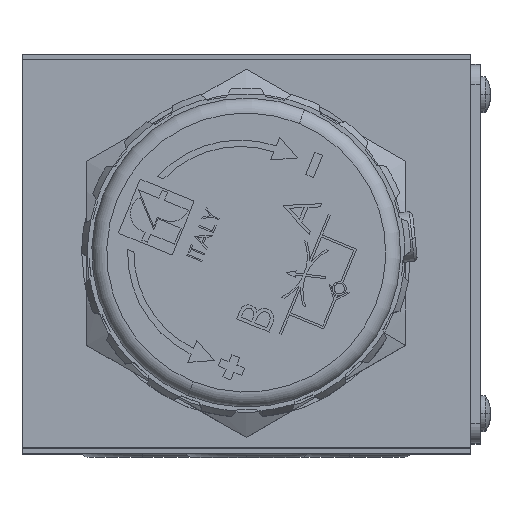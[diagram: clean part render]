
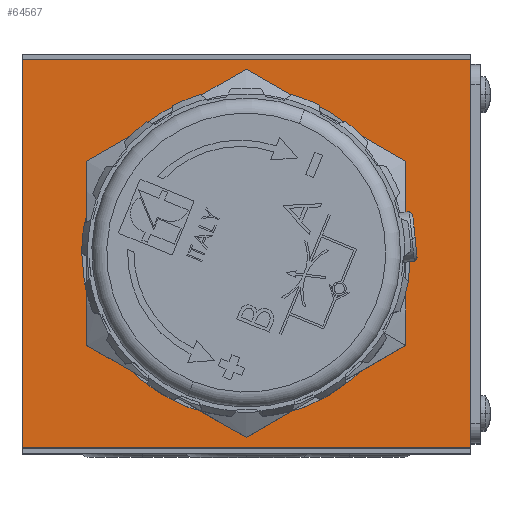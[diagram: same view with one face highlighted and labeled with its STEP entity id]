
A CAD part, top view. The second image highlights one B-rep face of the part: STEP entity #64567.
In plain terms, the highlighted planar face has unit normal (0, 0, 1).
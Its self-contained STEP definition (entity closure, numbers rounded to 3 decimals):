
#1068 = ORIENTED_EDGE ( 'NONE', *, *, #22616, .T. ) ;
#3894 = VERTEX_POINT ( 'NONE', #37550 ) ;
#4817 = LINE ( 'NONE', #13232, #6433 ) ;
#5064 = VERTEX_POINT ( 'NONE', #12474 ) ;
#5977 = AXIS2_PLACEMENT_3D ( 'NONE', #40467, #10219, #45578 ) ;
#6433 = VECTOR ( 'NONE', #33966, 1000. ) ;
#10219 = DIRECTION ( 'NONE',  ( 0., 0., 1. ) ) ;
#10762 = CARTESIAN_POINT ( 'NONE',  ( -22.5, 20., 47.5 ) ) ;
#12474 = CARTESIAN_POINT ( 'NONE',  ( 22.5, -19.5, 47.5 ) ) ;
#12899 = VECTOR ( 'NONE', #15881, 1000. ) ;
#13232 = CARTESIAN_POINT ( 'NONE',  ( -22.5, 19.5, 47.5 ) ) ;
#14817 = CIRCLE ( 'NONE', #31847, 16.5 ) ;
#15116 = CARTESIAN_POINT ( 'NONE',  ( -22.5, 19.5, 47.5 ) ) ;
#15182 = DIRECTION ( 'NONE',  ( 0., 0., 1. ) ) ;
#15740 = DIRECTION ( 'NONE',  ( 0., 0., 1. ) ) ;
#15881 = DIRECTION ( 'NONE',  ( 0., -1., 0. ) ) ;
#16913 = VERTEX_POINT ( 'NONE', #15116 ) ;
#17282 = ORIENTED_EDGE ( 'NONE', *, *, #27419, .F. ) ;
#18011 = FACE_BOUND ( 'NONE', #21897, .T. ) ;
#20238 = FACE_OUTER_BOUND ( 'NONE', #56572, .T. ) ;
#21897 = EDGE_LOOP ( 'NONE', ( #57751, #17282 ) ) ;
#22616 = EDGE_CURVE ( 'NONE', #5064, #49713, #26382, .T. ) ;
#23769 = ORIENTED_EDGE ( 'NONE', *, *, #41023, .F. ) ;
#26278 = LINE ( 'NONE', #10762, #12899 ) ;
#26382 = LINE ( 'NONE', #50719, #50111 ) ;
#27419 = EDGE_CURVE ( 'NONE', #65351, #3894, #32615, .T. ) ;
#28887 = CARTESIAN_POINT ( 'NONE',  ( -22.5, -19.5, 47.5 ) ) ;
#31040 = CARTESIAN_POINT ( 'NONE',  ( -16.5, 0., 47.5 ) ) ;
#31847 = AXIS2_PLACEMENT_3D ( 'NONE', #45995, #15740, #51072 ) ;
#32615 = CIRCLE ( 'NONE', #5977, 16.5 ) ;
#33751 = EDGE_CURVE ( 'NONE', #16913, #49713, #4817, .T. ) ;
#33966 = DIRECTION ( 'NONE',  ( 1., 0., 0. ) ) ;
#35027 = PLANE ( 'NONE',  #39084 ) ;
#37283 = VERTEX_POINT ( 'NONE', #39492 ) ;
#37550 = CARTESIAN_POINT ( 'NONE',  ( 16.5, 0., 47.5 ) ) ;
#39084 = AXIS2_PLACEMENT_3D ( 'NONE', #45408, #15182, #50498 ) ;
#39492 = CARTESIAN_POINT ( 'NONE',  ( -22.5, -19.5, 47.5 ) ) ;
#40467 = CARTESIAN_POINT ( 'NONE',  ( 0., 0., 47.5 ) ) ;
#41023 = EDGE_CURVE ( 'NONE', #5064, #37283, #49260, .T. ) ;
#42853 = CARTESIAN_POINT ( 'NONE',  ( 22.5, 19.5, 47.5 ) ) ;
#43380 = ORIENTED_EDGE ( 'NONE', *, *, #53833, .T. ) ;
#45408 = CARTESIAN_POINT ( 'NONE',  ( -22.5, -20., 47.5 ) ) ;
#45578 = DIRECTION ( 'NONE',  ( 1., 0., 0. ) ) ;
#45995 = CARTESIAN_POINT ( 'NONE',  ( 0., 0., 47.5 ) ) ;
#49260 = LINE ( 'NONE', #28887, #62740 ) ;
#49713 = VERTEX_POINT ( 'NONE', #42853 ) ;
#50111 = VECTOR ( 'NONE', #55820, 1000. ) ;
#50498 = DIRECTION ( 'NONE',  ( 1., 0., 0. ) ) ;
#50719 = CARTESIAN_POINT ( 'NONE',  ( 22.5, 20., 47.5 ) ) ;
#51072 = DIRECTION ( 'NONE',  ( 1., 0., 0. ) ) ;
#52947 = ORIENTED_EDGE ( 'NONE', *, *, #33751, .F. ) ;
#53833 = EDGE_CURVE ( 'NONE', #16913, #37283, #26278, .T. ) ;
#55820 = DIRECTION ( 'NONE',  ( 0., 1., 0. ) ) ;
#56572 = EDGE_LOOP ( 'NONE', ( #23769, #1068, #52947, #43380 ) ) ;
#57681 = EDGE_CURVE ( 'NONE', #3894, #65351, #14817, .T. ) ;
#57751 = ORIENTED_EDGE ( 'NONE', *, *, #57681, .F. ) ;
#62740 = VECTOR ( 'NONE', #64478, 1000. ) ;
#64478 = DIRECTION ( 'NONE',  ( -1., 0., 0. ) ) ;
#64567 = ADVANCED_FACE ( 'NONE', ( #18011, #20238 ), #35027, .T. ) ;
#65351 = VERTEX_POINT ( 'NONE', #31040 ) ;
